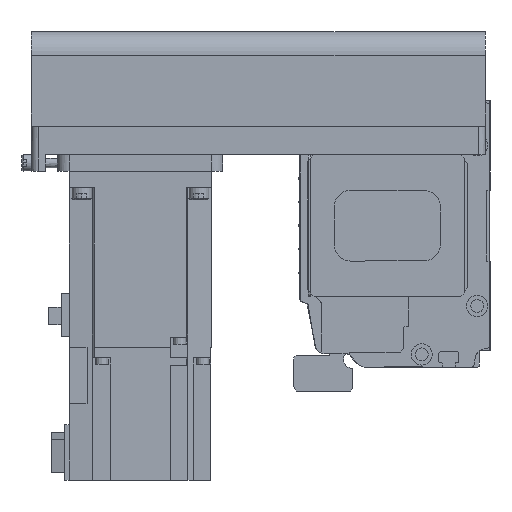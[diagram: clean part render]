
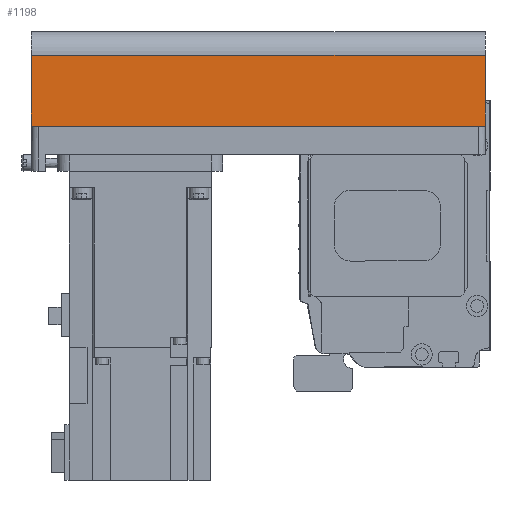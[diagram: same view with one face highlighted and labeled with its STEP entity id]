
A CAD part, left-side view. The second image highlights one B-rep face of the part: STEP entity #1198.
In plain terms, the highlighted planar face has unit normal (-1, 0, 0) as drawn and (0, 1, 0) by its records, which use the part's own axes.
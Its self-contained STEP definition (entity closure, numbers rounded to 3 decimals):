
#1198 = ADVANCED_FACE( '', ( #2996 ), #2997, .T. );
#2996 = FACE_OUTER_BOUND( '', #5580, .T. );
#2997 = PLANE( '', #5581 );
#5580 = EDGE_LOOP( '', ( #8890, #8891, #8892, #8893 ) );
#5581 = AXIS2_PLACEMENT_3D( '', #8894, #8895, #8896 );
#8890 = ORIENTED_EDGE( '', *, *, #15111, .F. );
#8891 = ORIENTED_EDGE( '', *, *, #15058, .F. );
#8892 = ORIENTED_EDGE( '', *, *, #15112, .T. );
#8893 = ORIENTED_EDGE( '', *, *, #15113, .T. );
#8894 = CARTESIAN_POINT( '', ( -192., 40., -42. ) );
#8895 = DIRECTION( '', ( 0., 1., 0. ) );
#8896 = DIRECTION( '', ( 0., 0., 1. ) );
#15058 = EDGE_CURVE( '', #18135, #18131, #18137, .T. );
#15111 = EDGE_CURVE( '', #18131, #17765, #18225, .T. );
#15112 = EDGE_CURVE( '', #18135, #18226, #18227, .T. );
#15113 = EDGE_CURVE( '', #18226, #17765, #18228, .T. );
#17765 = VERTEX_POINT( '', #21836 );
#18131 = VERTEX_POINT( '', #22332 );
#18135 = VERTEX_POINT( '', #22337 );
#18137 = LINE( '', #22339, #22340 );
#18225 = LINE( '', #22457, #22458 );
#18226 = VERTEX_POINT( '', #22459 );
#18227 = LINE( '', #22460, #22461 );
#18228 = LINE( '', #22462, #22463 );
#21836 = CARTESIAN_POINT( '', ( 0., 40., -12.1 ) );
#22332 = CARTESIAN_POINT( '', ( 0., 40., -42. ) );
#22337 = CARTESIAN_POINT( '', ( -192., 40., -42. ) );
#22339 = CARTESIAN_POINT( '', ( -192., 40., -42. ) );
#22340 = VECTOR( '', #26691, 1000. );
#22457 = CARTESIAN_POINT( '', ( 0., 40., -42. ) );
#22458 = VECTOR( '', #26754, 1000. );
#22459 = CARTESIAN_POINT( '', ( -192., 40., -12.1 ) );
#22460 = CARTESIAN_POINT( '', ( -192., 40., -42. ) );
#22461 = VECTOR( '', #26755, 1000. );
#22462 = CARTESIAN_POINT( '', ( -192., 40., -12.1 ) );
#22463 = VECTOR( '', #26756, 1000. );
#26691 = DIRECTION( '', ( 1., 0., 0. ) );
#26754 = DIRECTION( '', ( 0., 0., 1. ) );
#26755 = DIRECTION( '', ( 0., 0., 1. ) );
#26756 = DIRECTION( '', ( 1., 0., 0. ) );
